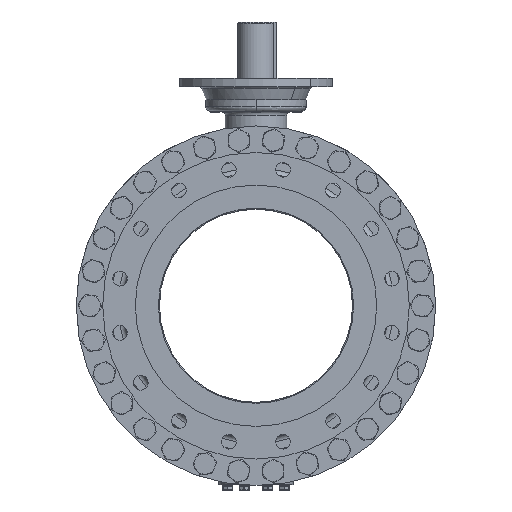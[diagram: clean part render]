
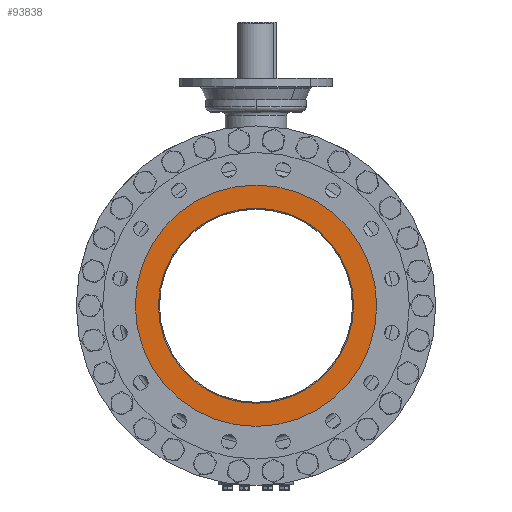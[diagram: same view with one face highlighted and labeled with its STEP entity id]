
A CAD part, left-side view. The second image highlights one B-rep face of the part: STEP entity #93838.
In plain terms, the highlighted planar face has unit normal (-1, 0, 0).
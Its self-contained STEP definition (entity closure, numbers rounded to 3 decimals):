
#16270=CARTESIAN_POINT('',(-381.,0.,0.));
#16271=DIRECTION('',(1.,0.,0.));
#16272=DIRECTION('',(0.,0.,1.));
#16273=AXIS2_PLACEMENT_3D('',#16270,#16271,#16272);
#16275=CARTESIAN_POINT('',(-381.,0.,0.));
#16276=DIRECTION('',(-1.,0.,0.));
#16277=DIRECTION('',(0.,0.,1.));
#16278=AXIS2_PLACEMENT_3D('',#16275,#16276,#16277);
#16280=CARTESIAN_POINT('',(-381.,0.,0.));
#16281=DIRECTION('',(-1.,0.,0.));
#16282=DIRECTION('',(0.,0.,1.));
#16283=AXIS2_PLACEMENT_3D('',#16280,#16281,#16282);
#16293=CARTESIAN_POINT('',(-381.,0.,0.));
#16294=DIRECTION('',(1.,0.,0.));
#16295=DIRECTION('',(0.,0.,1.));
#16296=AXIS2_PLACEMENT_3D('',#16293,#16294,#16295);
#63969=CARTESIAN_POINT('',(-381.,0.,190.));
#63971=VERTEX_POINT('',#63969);
#63977=CARTESIAN_POINT('',(-381.,0.,-190.));
#63979=VERTEX_POINT('',#63977);
#64128=CARTESIAN_POINT('',(-381.,0.,234.95));
#64130=VERTEX_POINT('',#64128);
#64132=CARTESIAN_POINT('',(-381.,0.,-234.95));
#64134=VERTEX_POINT('',#64132);
#93823=CARTESIAN_POINT('',(-381.,0.,0.));
#93824=DIRECTION('',(-1.,0.,0.));
#93825=DIRECTION('',(0.,0.,-1.));
#93826=AXIS2_PLACEMENT_3D('',#93823,#93824,#93825);
#93827=PLANE('',#93826);
#93829=ORIENTED_EDGE('',*,*,#93828,.F.);
#93831=ORIENTED_EDGE('',*,*,#93830,.T.);
#93832=EDGE_LOOP('',(#93829,#93831));
#93833=FACE_OUTER_BOUND('',#93832,.F.);
#93834=ORIENTED_EDGE('',*,*,#93802,.F.);
#93835=ORIENTED_EDGE('',*,*,#93818,.T.);
#93836=EDGE_LOOP('',(#93834,#93835));
#93837=FACE_BOUND('',#93836,.F.);
#93838=ADVANCED_FACE('',(#93833,#93837),#93827,.T.);
#16274=CIRCLE('',#16273,190.);
#16279=CIRCLE('',#16278,190.);
#16284=CIRCLE('',#16283,234.95);
#16297=CIRCLE('',#16296,234.95);
#93802=EDGE_CURVE('',#63971,#63979,#16274,.T.);
#93818=EDGE_CURVE('',#63971,#63979,#16279,.T.);
#93828=EDGE_CURVE('',#64130,#64134,#16284,.T.);
#93830=EDGE_CURVE('',#64130,#64134,#16297,.T.);
